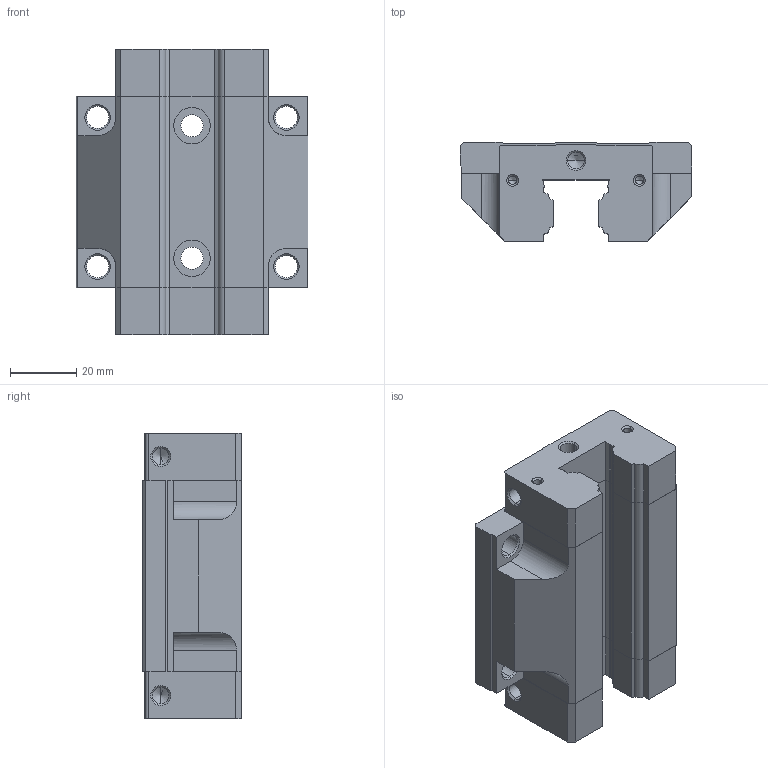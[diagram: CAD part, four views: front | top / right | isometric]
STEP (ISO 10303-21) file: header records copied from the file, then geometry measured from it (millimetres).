
FILE_DESCRIPTION (( 'STEP AP214' ), '1' );
FILE_NAME ('RUSIZE_112431838405.step', '2006-11-24T08:18:05', ( 'sysAdmin' ), ( 'SolidWorks' ), 'SwSTEP 2.0', 'SolidWorks 2007', '' );
FILE_SCHEMA (( 'AUTOMOTIVE_DESIGN' ));
Length unit declared in the file: millimetre
Products named in the file (1): RUSIZE_112431838405
Bounding box: 70 x 29.9 x 86.2 mm (x, y, z)
Volume: 110788.6 mm3; surface area: 28006.1 mm2
Topology: 3 solids, 3 shells, 234 faces, 606 edges, 374 vertices
Faces by surface type: plane 110, cylinder 64, cone 60
Entity records: 7703 total; most frequent: DIRECTION 1216, CARTESIAN_POINT 1207, ORIENTED_EDGE 1172, EDGE_CURVE 586, VECTOR 418, LINE 418, AXIS2_PLACEMENT_3D 399, VERTEX_POINT 374
